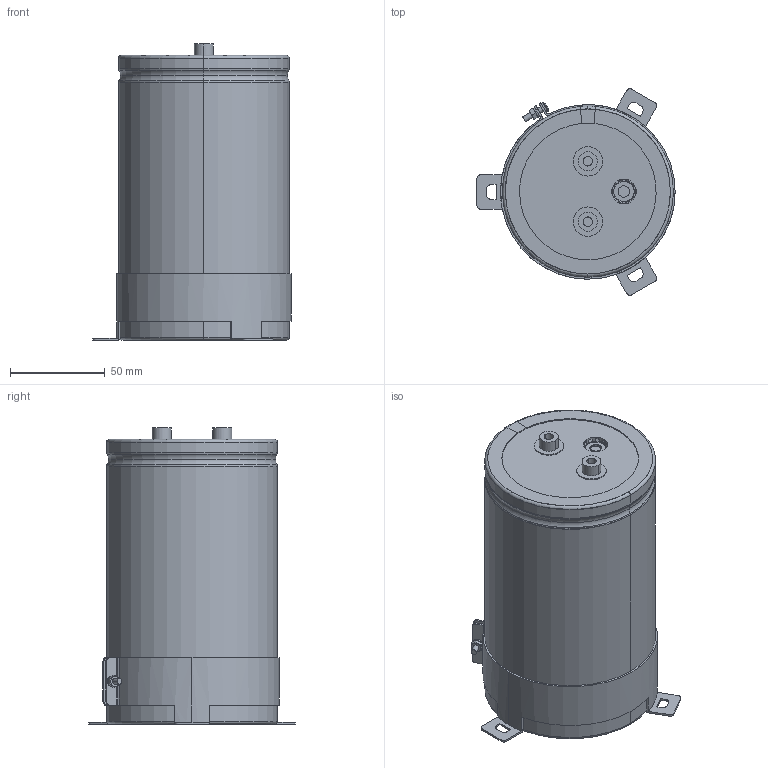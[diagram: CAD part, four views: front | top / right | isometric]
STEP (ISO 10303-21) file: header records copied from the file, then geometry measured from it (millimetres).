
FILE_DESCRIPTION(('STEP AP214'),'1');
FILE_NAME('90x150_Screw.stp','2022-03-14T08:56:53',(' '),(' '),'Spatial InterOp 3D',' ',' ');
FILE_SCHEMA(('AUTOMOTIVE_DESIGN { 1 0 10303 214 1 1 1 1 }'));
Length unit declared in the file: metre
Products named in the file (10): 90x150_Screw; Component1; Component2; Component3; Component4; Component5; Component6; Component7; Component8; Component9
Assembly tree (9 placements, depth 2):
  90x150_Screw
    Component1
    Component2
    Component3
    Component4
    Component5
    Component6
    Component7
    Component8
    Component9
Bounding box: 104.5 x 108.86 x 156 mm (x, y, z)
Volume: 956819.1 mm3; surface area: 166707.4 mm2
Topology: 9 solids, 9 shells, 352 faces, 873 edges, 551 vertices
Faces by surface type: plane 112, cylinder 110, torus 90, cone 38, sphere 2
Entity records: 11474 total; most frequent: DIRECTION 2126, CARTESIAN_POINT 1918, ORIENTED_EDGE 1746, AXIS2_PLACEMENT_3D 919, EDGE_CURVE 873, VERTEX_POINT 551, CIRCLE 511, EDGE_LOOP 380
